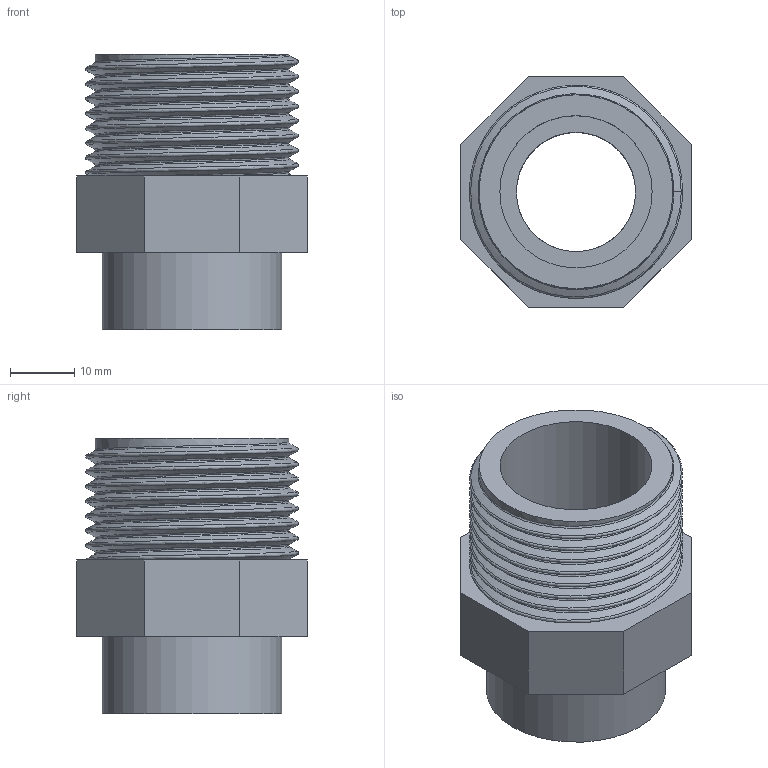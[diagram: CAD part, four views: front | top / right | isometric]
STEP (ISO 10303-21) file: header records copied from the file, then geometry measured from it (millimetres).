
FILE_DESCRIPTION(/* description */ ('PVC riduzione filettata BSP maschio-femmina'),/* implementation_level */ '2;1');
FILE_NAME(/* name */ 'C:\Users\POLYPIPE\Desktop\DATASET INVENTOR\LIBRERIA EFFAST\RACCORDI 3DxWEB\RER\3D_RERRIE\3D_RERRIE032B.stp',/* time_stamp */ '2018-01-19T17:01:41+01:00',/* author */ ('POLYPIPE'),/* organization */ ('Polypipe Italia '),/* preprocessor_version */ 'ST-DEVELOPER v16.1',/* originating_system */ 'Autodesk Inventor 2016',/* authorisation */ '');
FILE_SCHEMA (('CONFIG_CONTROL_DESIGN'));
Length unit declared in the file: millimetre
Products named in the file (1): 3D_RERRIE032B
Bounding box: 36 x 36 x 43 mm (x, y, z)
Volume: 19329.5 mm3; surface area: 10674.6 mm2
Topology: 1 solids, 1 shells, 29 faces, 68 edges, 44 vertices
Faces by surface type: plane 15, bspline 10, cylinder 4
Full cylindrical faces by diameter (mm): 18.631 x1, 23.8 x1, 28 x1, 30.291 x1
Entity records: 6919 total; most frequent: CARTESIAN_POINT 6304, ORIENTED_EDGE 128, DIRECTION 94, EDGE_CURVE 64, VERTEX_POINT 43, EDGE_LOOP 37, AXIS2_PLACEMENT_3D 32, LINE 30
